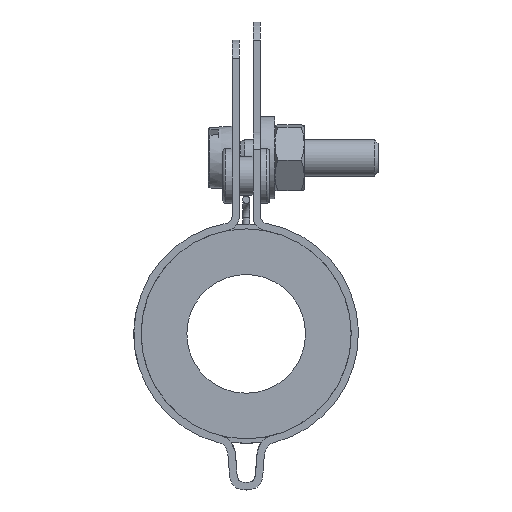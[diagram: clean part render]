
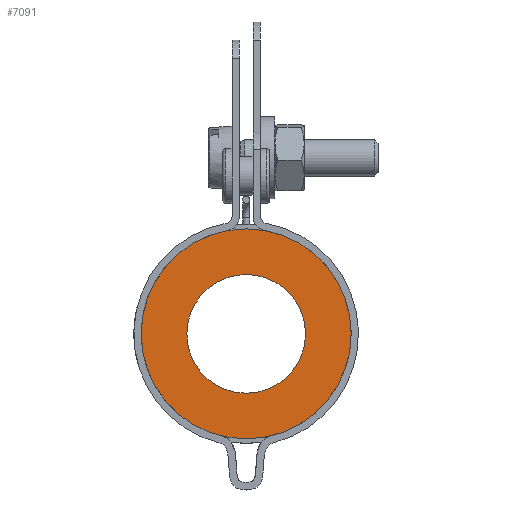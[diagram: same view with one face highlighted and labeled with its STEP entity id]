
A CAD part, front view. The second image highlights one B-rep face of the part: STEP entity #7091.
In plain terms, the highlighted planar face has unit normal (0, -1, 0).
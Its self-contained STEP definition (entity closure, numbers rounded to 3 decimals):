
#1354=FACE_BOUND($,#2104,.T.);
#1355=FACE_BOUND($,#2105,.T.);
#2104=EDGE_LOOP($,(#5830));
#2105=EDGE_LOOP($,(#5831));
#2490=CIRCLE($,#7686,11.5);
#2528=CIRCLE($,#7786,6.5);
#3107=VERTEX_POINT($,#11797);
#3153=VERTEX_POINT($,#11971);
#4024=EDGE_CURVE($,#3107,#3107,#2490,.T.);
#4070=EDGE_CURVE($,#3153,#3153,#2528,.T.);
#5830=ORIENTED_EDGE($,*,*,#4070,.T.);
#5831=ORIENTED_EDGE($,*,*,#4024,.T.);
#6385=PLANE($,#7788);
#7091=ADVANCED_FACE($,(#1354,#1355),#6385,.T.);
#7686=AXIS2_PLACEMENT_3D($,#11798,#9406,#9407);
#7786=AXIS2_PLACEMENT_3D($,#11972,#9610,#9611);
#7788=AXIS2_PLACEMENT_3D($,#11974,#9614,#9615);
#9406=DIRECTION('center_axis',(0.,-1.,0.));
#9407=DIRECTION('ref_axis',(1.,0.,0.));
#9610=DIRECTION('center_axis',(0.,1.,0.));
#9611=DIRECTION('ref_axis',(1.,0.,0.));
#9614=DIRECTION('center_axis',(0.,-1.,0.));
#9615=DIRECTION('ref_axis',(0.,0.,-1.));
#11797=CARTESIAN_POINT('',(10.145,46.577,19.693));
#11798=CARTESIAN_POINT('Origin',(21.645,46.577,19.693));
#11971=CARTESIAN_POINT('',(15.145,46.577,19.693));
#11972=CARTESIAN_POINT('Origin',(21.645,46.577,19.693));
#11974=CARTESIAN_POINT('Origin',(21.645,46.577,19.693));
